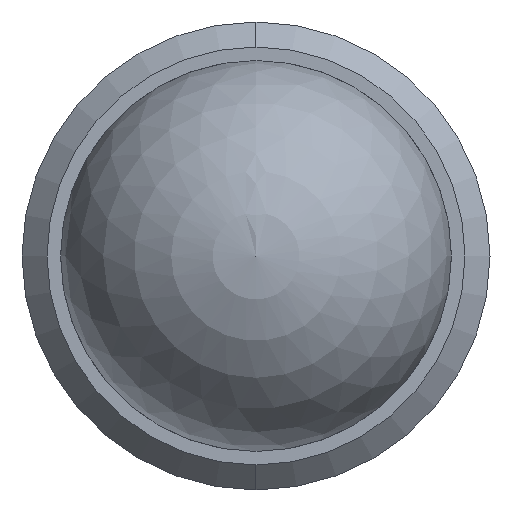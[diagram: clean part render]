
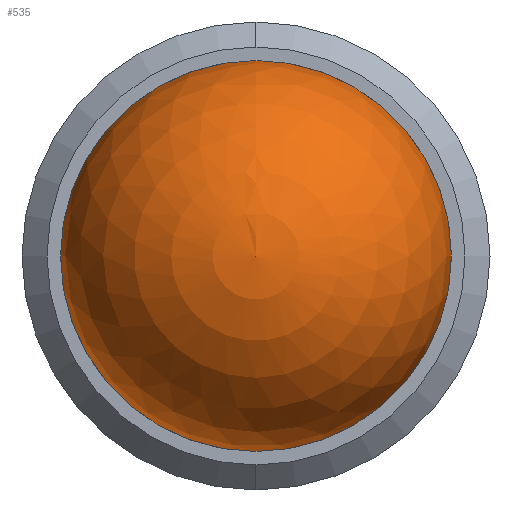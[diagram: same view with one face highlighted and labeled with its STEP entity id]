
A CAD part, left-side view. The second image highlights one B-rep face of the part: STEP entity #535.
In plain terms, the highlighted spherical face has radius 1.984 mm.
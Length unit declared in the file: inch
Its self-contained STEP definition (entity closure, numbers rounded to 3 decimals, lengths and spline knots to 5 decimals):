
#17 = DIRECTION ( 'NONE',  ( 0., 0., 1. ) ) ;
#84 = CARTESIAN_POINT ( 'NONE',  ( 0., 0., 0. ) ) ;
#118 = CIRCLE ( 'NONE', #628, 0.07813 ) ;
#149 = DIRECTION ( 'NONE',  ( 0., 0., -1. ) ) ;
#154 = CARTESIAN_POINT ( 'NONE',  ( 0., 0., 0. ) ) ;
#163 = CIRCLE ( 'NONE', #276, 0.07813 ) ;
#204 = SPHERICAL_SURFACE ( 'NONE', #272, 0.07813 ) ;
#211 = FACE_OUTER_BOUND ( 'NONE', #496, .T. ) ;
#213 = EDGE_CURVE ( 'NONE', #573, #270, #118, .T. ) ;
#221 = EDGE_CURVE ( 'NONE', #573, #270, #163, .T. ) ;
#270 = VERTEX_POINT ( 'NONE', #562 ) ;
#272 = AXIS2_PLACEMENT_3D ( 'NONE', #154, #513, #17 ) ;
#275 = DIRECTION ( 'NONE',  ( -1., 0., 0. ) ) ;
#276 = AXIS2_PLACEMENT_3D ( 'NONE', #509, #275, #549 ) ;
#284 = ORIENTED_EDGE ( 'NONE', *, *, #213, .F. ) ;
#371 = ORIENTED_EDGE ( 'NONE', *, *, #221, .T. ) ;
#452 = DIRECTION ( 'NONE',  ( 1., 0., 0. ) ) ;
#496 = EDGE_LOOP ( 'NONE', ( #284, #371 ) ) ;
#509 = CARTESIAN_POINT ( 'NONE',  ( 0., 0., 0. ) ) ;
#513 = DIRECTION ( 'NONE',  ( -1., 0., 0. ) ) ;
#535 = ADVANCED_FACE ( 'NONE', ( #211 ), #204, .T. ) ;
#549 = DIRECTION ( 'NONE',  ( 0., 0., 1. ) ) ;
#562 = CARTESIAN_POINT ( 'NONE',  ( 0., -0.07813, 0. ) ) ;
#573 = VERTEX_POINT ( 'NONE', #606 ) ;
#606 = CARTESIAN_POINT ( 'NONE',  ( 0., 0.07813, 0. ) ) ;
#628 = AXIS2_PLACEMENT_3D ( 'NONE', #84, #452, #149 ) ;
